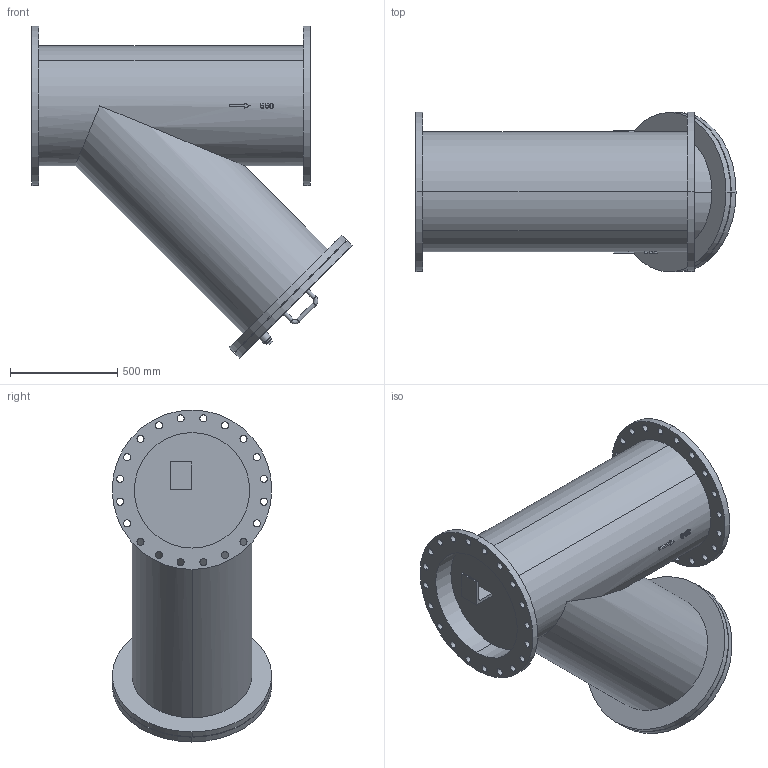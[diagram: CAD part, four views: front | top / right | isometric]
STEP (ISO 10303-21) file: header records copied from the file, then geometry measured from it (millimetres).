
FILE_DESCRIPTION( (''), '2;1');
FILE_NAME ('PC1056.8336.SY-13(550A)_24861.stp','2024-08-19T16:07:50',(''),(''),'spGate 19.8.4 (****-****-****-****)','','');
FILE_SCHEMA (('AUTOMOTIVE_DESIGN'));
Length unit declared in the file: millimetre
Products named in the file (15): Assembly; SY13(550A)本体P; CP_山形鋼(等辺)_L-130x130x15x100_9; 550Aカバー; PC1056-prt3; PC1056-prt4; PC1056-prt5; PC1056-prt6; PC1056-prt7; 500A取っ手_M7; 500A取っ手_M8; 500A取っ手_M9; 500A取っ手_M10; PC1056-prt12; plug-25A-JISB2301
Assembly tree (23 placements, depth 2):
  Assembly
    SY13(550A)本体P
    CP_山形鋼(等辺)_L-130x130x15x100_9
    550Aカバー
    PC1056-prt3  x2
    PC1056-prt4  x2
    PC1056-prt5  x2
    PC1056-prt6  x2
    PC1056-prt7  x2
    500A取っ手_M7  x2
    500A取っ手_M8  x2
    500A取っ手_M9  x2
    500A取っ手_M10  x2
    PC1056-prt12
    plug-25A-JISB2301
Bounding box: 1495.19 x 745 x 1550.19 mm (x, y, z)
Volume: 531637033.6 mm3; surface area: 7043645.4 mm2
Topology: 12 solids, 12 shells, 309 faces, 790 edges, 534 vertices
Faces by surface type: cylinder 186, plane 78, bspline 45
Entity records: 18162 total; most frequent: CARTESIAN_POINT 4756, ORIENTED_EDGE 1502, DIRECTION 1464, COLOUR_RGB 1056, PRESENTATION_STYLE_ASSIGNMENT 1056, STYLED_ITEM 1056, DRAUGHTING_PRE_DEFINED_CURVE_FONT 757, CURVE_STYLE 757
